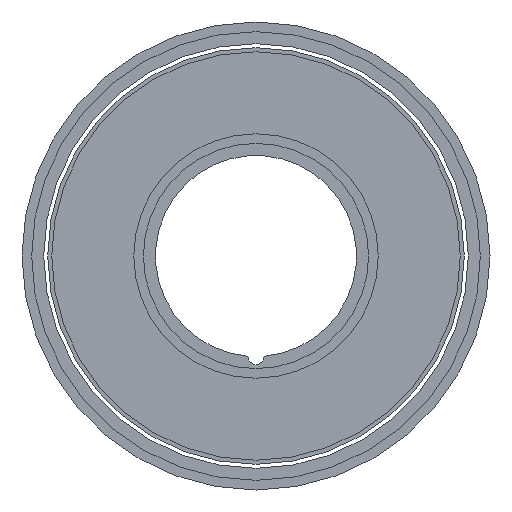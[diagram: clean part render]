
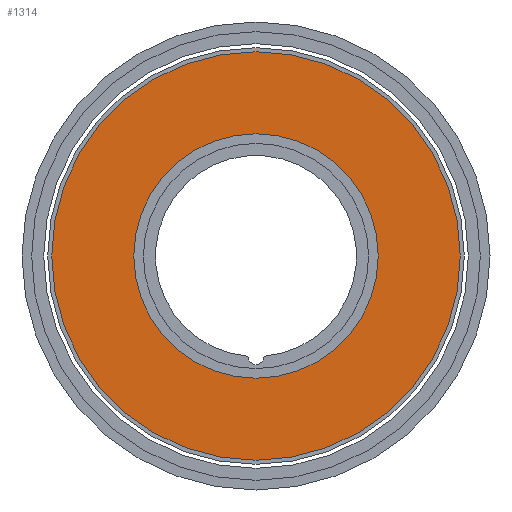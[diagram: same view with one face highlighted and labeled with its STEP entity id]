
A CAD part, front view. The second image highlights one B-rep face of the part: STEP entity #1314.
In plain terms, the highlighted planar face has unit normal (0, -1, 0).
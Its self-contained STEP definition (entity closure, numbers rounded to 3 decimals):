
#17 = EDGE_CURVE ( 'NONE', #1079, #639, #879, .T. ) ;
#152 = ORIENTED_EDGE ( 'NONE', *, *, #1149, .F. ) ;
#181 = AXIS2_PLACEMENT_3D ( 'NONE', #1013, #1673, #1549 ) ;
#233 = AXIS2_PLACEMENT_3D ( 'NONE', #688, #1084, #1444 ) ;
#297 = CARTESIAN_POINT ( 'NONE',  ( 0., -2.5, 0. ) ) ;
#351 = AXIS2_PLACEMENT_3D ( 'NONE', #490, #612, #1390 ) ;
#410 = ORIENTED_EDGE ( 'NONE', *, *, #591, .F. ) ;
#465 = ORIENTED_EDGE ( 'NONE', *, *, #1485, .T. ) ;
#490 = CARTESIAN_POINT ( 'NONE',  ( 0., -2.5, 0. ) ) ;
#540 = DIRECTION ( 'NONE',  ( 0., 0., 1. ) ) ;
#591 = EDGE_CURVE ( 'NONE', #594, #1408, #1663, .T. ) ;
#594 = VERTEX_POINT ( 'NONE', #1532 ) ;
#603 = CARTESIAN_POINT ( 'NONE',  ( 0., -2.5, -15.2 ) ) ;
#612 = DIRECTION ( 'NONE',  ( 0., 1., 0. ) ) ;
#631 = CIRCLE ( 'NONE', #233, 15.2 ) ;
#639 = VERTEX_POINT ( 'NONE', #603 ) ;
#648 = ORIENTED_EDGE ( 'NONE', *, *, #17, .T. ) ;
#683 = CARTESIAN_POINT ( 'NONE',  ( 0., -2.5, -25.4 ) ) ;
#688 = CARTESIAN_POINT ( 'NONE',  ( 0., -2.5, 0. ) ) ;
#691 = AXIS2_PLACEMENT_3D ( 'NONE', #297, #1307, #540 ) ;
#715 = AXIS2_PLACEMENT_3D ( 'NONE', #1379, #864, #984 ) ;
#818 = FACE_BOUND ( 'NONE', #922, .T. ) ;
#864 = DIRECTION ( 'NONE',  ( 0., 1., 0. ) ) ;
#879 = CIRCLE ( 'NONE', #715, 15.2 ) ;
#922 = EDGE_LOOP ( 'NONE', ( #648, #465 ) ) ;
#957 = CARTESIAN_POINT ( 'NONE',  ( 0., -2.5, 15.2 ) ) ;
#984 = DIRECTION ( 'NONE',  ( 0., 0., 1. ) ) ;
#1013 = CARTESIAN_POINT ( 'NONE',  ( 0., -2.5, 0. ) ) ;
#1079 = VERTEX_POINT ( 'NONE', #957 ) ;
#1084 = DIRECTION ( 'NONE',  ( 0., 1., 0. ) ) ;
#1090 = CIRCLE ( 'NONE', #351, 25.4 ) ;
#1149 = EDGE_CURVE ( 'NONE', #1408, #594, #1090, .T. ) ;
#1307 = DIRECTION ( 'NONE',  ( 0., 1., 0. ) ) ;
#1314 = ADVANCED_FACE ( 'NONE', ( #818, #1431 ), #1327, .F. ) ;
#1327 = PLANE ( 'NONE',  #691 ) ;
#1379 = CARTESIAN_POINT ( 'NONE',  ( 0., -2.5, 0. ) ) ;
#1390 = DIRECTION ( 'NONE',  ( 0., 0., 1. ) ) ;
#1408 = VERTEX_POINT ( 'NONE', #683 ) ;
#1431 = FACE_OUTER_BOUND ( 'NONE', #1622, .T. ) ;
#1444 = DIRECTION ( 'NONE',  ( 0., 0., 1. ) ) ;
#1485 = EDGE_CURVE ( 'NONE', #639, #1079, #631, .T. ) ;
#1532 = CARTESIAN_POINT ( 'NONE',  ( 0., -2.5, 25.4 ) ) ;
#1549 = DIRECTION ( 'NONE',  ( 0., 0., 1. ) ) ;
#1622 = EDGE_LOOP ( 'NONE', ( #410, #152 ) ) ;
#1663 = CIRCLE ( 'NONE', #181, 25.4 ) ;
#1673 = DIRECTION ( 'NONE',  ( 0., 1., 0. ) ) ;
